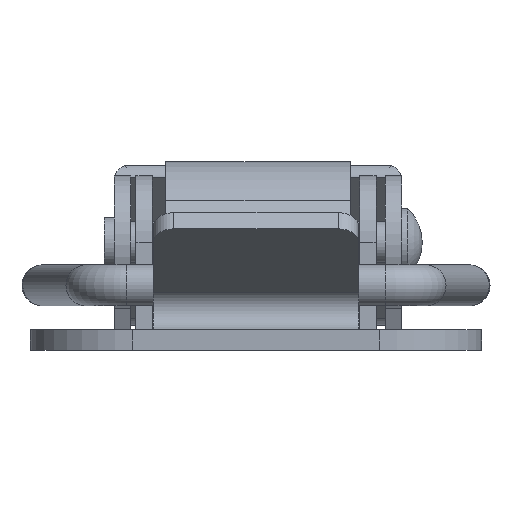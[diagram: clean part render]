
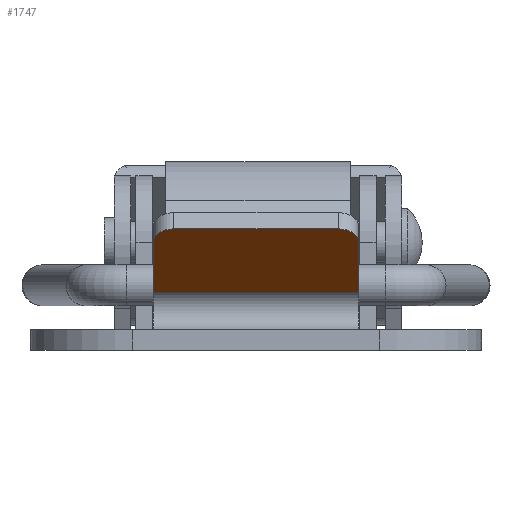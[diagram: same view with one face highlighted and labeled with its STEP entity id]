
A CAD part, left-side view. The second image highlights one B-rep face of the part: STEP entity #1747.
In plain terms, the highlighted planar face has unit normal (-0.614, 0, -0.789) as drawn and (0, 0.614, -0.789) by its records, which use the part's own axes.
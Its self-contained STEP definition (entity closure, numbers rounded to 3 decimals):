
#113=PLANE('',#1873);
#166=FACE_OUTER_BOUND('',#273,.T.);
#273=EDGE_LOOP('',(#1254,#1255,#1256,#1257,#1258,#1259));
#407=LINE('',#2652,#538);
#427=LINE('',#2716,#558);
#428=LINE('',#2719,#559);
#430=LINE('',#2726,#561);
#538=VECTOR('',#2078,8.);
#558=VECTOR('',#2138,4.085);
#559=VECTOR('',#2141,10.);
#561=VECTOR('',#2151,4.085);
#665=CIRCLE('',#1845,1.);
#676=CIRCLE('',#1864,1.);
#767=VERTEX_POINT('',#2639);
#768=VERTEX_POINT('',#2640);
#772=VERTEX_POINT('',#2650);
#794=VERTEX_POINT('',#2707);
#796=VERTEX_POINT('',#2714);
#797=VERTEX_POINT('',#2718);
#940=EDGE_CURVE('',#767,#768,#665,.T.);
#946=EDGE_CURVE('',#767,#772,#407,.T.);
#974=EDGE_CURVE('',#794,#772,#676,.T.);
#978=EDGE_CURVE('',#796,#794,#427,.T.);
#979=EDGE_CURVE('',#796,#797,#428,.T.);
#983=EDGE_CURVE('',#768,#797,#430,.T.);
#1254=ORIENTED_EDGE('',*,*,#940,.F.);
#1255=ORIENTED_EDGE('',*,*,#946,.T.);
#1256=ORIENTED_EDGE('',*,*,#974,.F.);
#1257=ORIENTED_EDGE('',*,*,#978,.F.);
#1258=ORIENTED_EDGE('',*,*,#979,.T.);
#1259=ORIENTED_EDGE('',*,*,#983,.F.);
#1747=ADVANCED_FACE('',(#166),#113,.T.);
#1845=AXIS2_PLACEMENT_3D('',#2641,#2068,#2069);
#1864=AXIS2_PLACEMENT_3D('',#2709,#2129,#2130);
#1873=AXIS2_PLACEMENT_3D('',#2728,#2153,#2154);
#2068=DIRECTION('center_axis',(0.,-0.614,0.789));
#2069=DIRECTION('ref_axis',(-0.707,0.558,0.434));
#2078=DIRECTION('',(1.,0.,0.));
#2129=DIRECTION('center_axis',(0.,-0.614,0.789));
#2130=DIRECTION('ref_axis',(0.707,0.558,0.434));
#2138=DIRECTION('',(0.,0.789,0.614));
#2141=DIRECTION('',(-1.,0.,0.));
#2151=DIRECTION('',(0.,-0.789,-0.614));
#2153=DIRECTION('center_axis',(0.,0.614,-0.789));
#2154=DIRECTION('ref_axis',(0.,0.789,0.614));
#2639=CARTESIAN_POINT('',(-4.,-1.95,5.911));
#2640=CARTESIAN_POINT('',(-5.,-2.739,5.297));
#2641=CARTESIAN_POINT('Origin',(-4.,-2.739,5.297));
#2650=CARTESIAN_POINT('',(4.,-1.95,5.911));
#2652=CARTESIAN_POINT('',(0.,-1.95,5.911));
#2707=CARTESIAN_POINT('',(5.,-2.739,5.297));
#2709=CARTESIAN_POINT('Origin',(4.,-2.739,5.297));
#2714=CARTESIAN_POINT('',(5.,-5.964,2.789));
#2716=CARTESIAN_POINT('',(5.,-5.964,2.789));
#2718=CARTESIAN_POINT('',(-5.,-5.964,2.789));
#2719=CARTESIAN_POINT('',(0.,-5.964,2.789));
#2726=CARTESIAN_POINT('',(-5.,-5.964,2.789));
#2728=CARTESIAN_POINT('Origin',(0.,-5.964,2.789));
